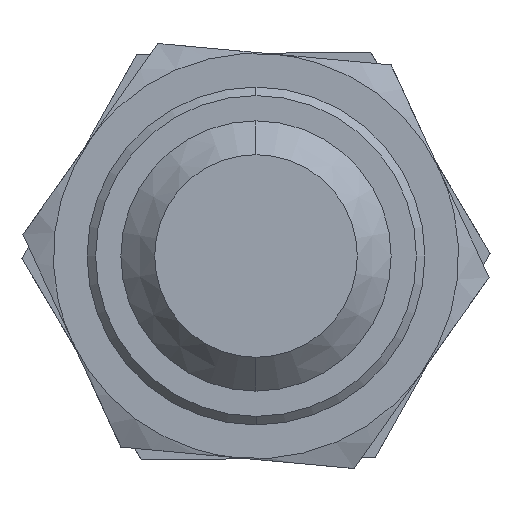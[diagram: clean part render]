
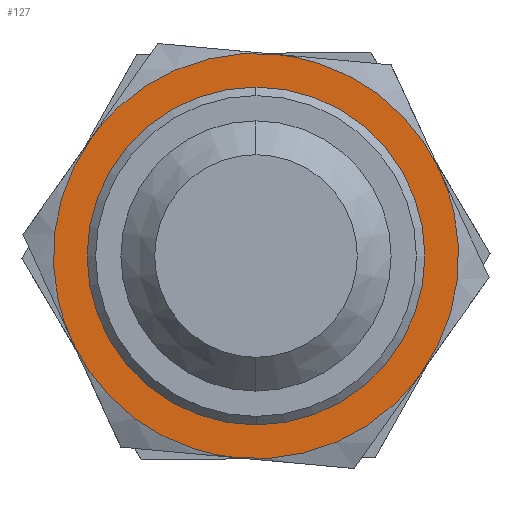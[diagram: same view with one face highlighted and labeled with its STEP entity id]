
A CAD part, left-side view. The second image highlights one B-rep face of the part: STEP entity #127.
In plain terms, the highlighted planar face has unit normal (-1, 0, 0) as drawn and (1, 0, 0) by its records, which use the part's own axes.
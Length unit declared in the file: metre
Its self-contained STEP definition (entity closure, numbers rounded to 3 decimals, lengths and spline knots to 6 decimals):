
#15 = CARTESIAN_POINT ( 'NONE',  ( 0.004, 0., 0. ) ) ;
#99 = VERTEX_POINT ( 'NONE', #1525 ) ;
#112 = CARTESIAN_POINT ( 'NONE',  ( 0.004, -0.010392, -0.006 ) ) ;
#127 = ADVANCED_FACE ( 'NONE', ( #1463, #517 ), #574, .T. ) ;
#131 = DIRECTION ( 'NONE',  ( 0., 1., 0. ) ) ;
#225 = CARTESIAN_POINT ( 'NONE',  ( 0.004, 0.010392, 0.006 ) ) ;
#288 = AXIS2_PLACEMENT_3D ( 'NONE', #15, #853, #131 ) ;
#294 = VERTEX_POINT ( 'NONE', #302 ) ;
#302 = CARTESIAN_POINT ( 'NONE',  ( 0.004, -0.010392, 0.006 ) ) ;
#339 =( BOUNDED_CURVE ( )  B_SPLINE_CURVE ( 3, ( #1264, #449, #691, #1518 ),
 .UNSPECIFIED., .F., .F. ) 
 B_SPLINE_CURVE_WITH_KNOTS ( ( 4, 4 ),
 ( 0., 0.012544 ),
 .UNSPECIFIED. ) 
 CURVE ( )  GEOMETRIC_REPRESENTATION_ITEM ( )  RATIONAL_B_SPLINE_CURVE ( ( 0.986, 0.898, 0.898, 0.986 ) ) 
 REPRESENTATION_ITEM ( '' )  );
#341 = AXIS2_PLACEMENT_3D ( 'NONE', #452, #1266, #571 ) ;
#368 = CARTESIAN_POINT ( 'NONE',  ( 0.004, -0.010392, 0.006 ) ) ;
#395 = ORIENTED_EDGE ( 'NONE', *, *, #990, .T. ) ;
#435 = EDGE_CURVE ( 'NONE', #99, #603, #1081, .T. ) ;
#449 = CARTESIAN_POINT ( 'NONE',  ( 0.004, 0.004392, -0.012 ) ) ;
#452 = CARTESIAN_POINT ( 'NONE',  ( 0.004, 0., 0. ) ) ;
#488 = CARTESIAN_POINT ( 'NONE',  ( 0.004, -0.012588, 0.002196 ) ) ;
#517 = FACE_OUTER_BOUND ( 'NONE', #657, .T. ) ;
#526 = CARTESIAN_POINT ( 'NONE',  ( 0.004, 0.00925, 0. ) ) ;
#528 = CARTESIAN_POINT ( 'NONE',  ( 0.004, 0., 0.012 ) ) ;
#532 = VERTEX_POINT ( 'NONE', #844 ) ;
#540 = ORIENTED_EDGE ( 'NONE', *, *, #831, .T. ) ;
#549 = VERTEX_POINT ( 'NONE', #1015 ) ;
#571 = DIRECTION ( 'NONE',  ( 0., 1., 0. ) ) ;
#574 = PLANE ( 'NONE',  #900 ) ;
#584 = CARTESIAN_POINT ( 'NONE',  ( 0.004, -0.012144, 0.012144 ) ) ;
#591 = CARTESIAN_POINT ( 'NONE',  ( 0.004, 0.008195, 0.009805 ) ) ;
#603 = VERTEX_POINT ( 'NONE', #1503 ) ;
#606 = CARTESIAN_POINT ( 'NONE',  ( 0.004, -0.008196, -0.009804 ) ) ;
#607 = ORIENTED_EDGE ( 'NONE', *, *, #1235, .F. ) ;
#614 = EDGE_CURVE ( 'NONE', #603, #1467, #339, .T. ) ;
#633 = CARTESIAN_POINT ( 'NONE',  ( 0.004, -0.010392, -0.006 ) ) ;
#650 = ORIENTED_EDGE ( 'NONE', *, *, #1493, .F. ) ;
#657 = EDGE_LOOP ( 'NONE', ( #751, #1045, #896, #1136, #540, #395 ) ) ;
#691 = CARTESIAN_POINT ( 'NONE',  ( 0.004, 0.008196, -0.009804 ) ) ;
#723 = CARTESIAN_POINT ( 'NONE',  ( 0.004, -0.010392, 0.006 ) ) ;
#732 = CARTESIAN_POINT ( 'NONE',  ( 0.004, -0.004392, -0.012 ) ) ;
#742 = CARTESIAN_POINT ( 'NONE',  ( 0.004, 0., -0.012 ) ) ;
#751 = ORIENTED_EDGE ( 'NONE', *, *, #1094, .T. ) ;
#764 = DIRECTION ( 'NONE',  ( 1., 0., 0. ) ) ;
#771 = CARTESIAN_POINT ( 'NONE',  ( 0.004, 0., 0.012 ) ) ;
#790 = CARTESIAN_POINT ( 'NONE',  ( 0.004, 0.010392, -0.006 ) ) ;
#801 = DIRECTION ( 'NONE',  ( 0., 0., -1. ) ) ;
#817 = CARTESIAN_POINT ( 'NONE',  ( 0.004, 0., 0.012 ) ) ;
#831 = EDGE_CURVE ( 'NONE', #1467, #549, #1091, .T. ) ;
#835 = CARTESIAN_POINT ( 'NONE',  ( 0.004, -0.012588, -0.002196 ) ) ;
#844 = CARTESIAN_POINT ( 'NONE',  ( 0.004, -0.00925, 0. ) ) ;
#853 = DIRECTION ( 'NONE',  ( 1., 0., 0. ) ) ;
#896 = ORIENTED_EDGE ( 'NONE', *, *, #435, .T. ) ;
#900 = AXIS2_PLACEMENT_3D ( 'NONE', #584, #764, #801 ) ;
#927 =( BOUNDED_CURVE ( )  B_SPLINE_CURVE ( 3, ( #225, #591, #1535, #817 ),
 .UNSPECIFIED., .F., .F. ) 
 B_SPLINE_CURVE_WITH_KNOTS ( ( 4, 4 ),
 ( 0., 0.012544 ),
 .UNSPECIFIED. ) 
 CURVE ( )  GEOMETRIC_REPRESENTATION_ITEM ( )  RATIONAL_B_SPLINE_CURVE ( ( 0.986, 0.898, 0.899, 0.987 ) ) 
 REPRESENTATION_ITEM ( '' )  );
#990 = EDGE_CURVE ( 'NONE', #549, #1416, #927, .T. ) ;
#1015 = CARTESIAN_POINT ( 'NONE',  ( 0.004, 0.010392, 0.006 ) ) ;
#1033 = CARTESIAN_POINT ( 'NONE',  ( 0.004, 0.010392, -0.006 ) ) ;
#1038 = CIRCLE ( 'NONE', #341, 0.00925 ) ;
#1045 = ORIENTED_EDGE ( 'NONE', *, *, #1154, .T. ) ;
#1081 =( BOUNDED_CURVE ( )  B_SPLINE_CURVE ( 3, ( #633, #606, #732, #742 ),
 .UNSPECIFIED., .F., .F. ) 
 B_SPLINE_CURVE_WITH_KNOTS ( ( 4, 4 ),
 ( 0., 0.012544 ),
 .UNSPECIFIED. ) 
 CURVE ( )  GEOMETRIC_REPRESENTATION_ITEM ( )  RATIONAL_B_SPLINE_CURVE ( ( 0.986, 0.898, 0.898, 0.986 ) ) 
 REPRESENTATION_ITEM ( '' )  );
#1091 =( BOUNDED_CURVE ( )  B_SPLINE_CURVE ( 3, ( #790, #1516, #1255, #1262 ),
 .UNSPECIFIED., .F., .F. ) 
 B_SPLINE_CURVE_WITH_KNOTS ( ( 4, 4 ),
 ( 0., 0.012544 ),
 .UNSPECIFIED. ) 
 CURVE ( )  GEOMETRIC_REPRESENTATION_ITEM ( )  RATIONAL_B_SPLINE_CURVE ( ( 0.986, 0.898, 0.898, 0.986 ) ) 
 REPRESENTATION_ITEM ( '' )  );
#1094 = EDGE_CURVE ( 'NONE', #1416, #294, #1175, .T. ) ;
#1136 = ORIENTED_EDGE ( 'NONE', *, *, #614, .T. ) ;
#1154 = EDGE_CURVE ( 'NONE', #294, #99, #1185, .T. ) ;
#1175 =( BOUNDED_CURVE ( )  B_SPLINE_CURVE ( 3, ( #528, #1184, #1428, #723 ),
 .UNSPECIFIED., .F., .F. ) 
 B_SPLINE_CURVE_WITH_KNOTS ( ( 4, 4 ),
 ( 0., 0.012544 ),
 .UNSPECIFIED. ) 
 CURVE ( )  GEOMETRIC_REPRESENTATION_ITEM ( )  RATIONAL_B_SPLINE_CURVE ( ( 0.986, 0.898, 0.898, 0.986 ) ) 
 REPRESENTATION_ITEM ( '' )  );
#1184 = CARTESIAN_POINT ( 'NONE',  ( 0.004, -0.004392, 0.012 ) ) ;
#1185 =( BOUNDED_CURVE ( )  B_SPLINE_CURVE ( 3, ( #368, #488, #835, #112 ),
 .UNSPECIFIED., .F., .T. ) 
 B_SPLINE_CURVE_WITH_KNOTS ( ( 4, 4 ),
 ( 0., 0.012544 ),
 .UNSPECIFIED. ) 
 CURVE ( )  GEOMETRIC_REPRESENTATION_ITEM ( )  RATIONAL_B_SPLINE_CURVE ( ( 0.986, 0.898, 0.898, 0.986 ) ) 
 REPRESENTATION_ITEM ( '' )  );
#1235 = EDGE_CURVE ( 'NONE', #1347, #532, #1364, .T. ) ;
#1255 = CARTESIAN_POINT ( 'NONE',  ( 0.004, 0.012588, 0.002196 ) ) ;
#1262 = CARTESIAN_POINT ( 'NONE',  ( 0.004, 0.010392, 0.006 ) ) ;
#1264 = CARTESIAN_POINT ( 'NONE',  ( 0.004, 0., -0.012 ) ) ;
#1266 = DIRECTION ( 'NONE',  ( 1., 0., 0. ) ) ;
#1347 = VERTEX_POINT ( 'NONE', #526 ) ;
#1357 = EDGE_LOOP ( 'NONE', ( #607, #650 ) ) ;
#1364 = CIRCLE ( 'NONE', #288, 0.00925 ) ;
#1416 = VERTEX_POINT ( 'NONE', #771 ) ;
#1428 = CARTESIAN_POINT ( 'NONE',  ( 0.004, -0.008196, 0.009804 ) ) ;
#1463 = FACE_BOUND ( 'NONE', #1357, .T. ) ;
#1467 = VERTEX_POINT ( 'NONE', #1033 ) ;
#1493 = EDGE_CURVE ( 'NONE', #532, #1347, #1038, .T. ) ;
#1503 = CARTESIAN_POINT ( 'NONE',  ( 0.004, 0., -0.012 ) ) ;
#1516 = CARTESIAN_POINT ( 'NONE',  ( 0.004, 0.012588, -0.002196 ) ) ;
#1518 = CARTESIAN_POINT ( 'NONE',  ( 0.004, 0.010392, -0.006 ) ) ;
#1525 = CARTESIAN_POINT ( 'NONE',  ( 0.004, -0.010392, -0.006 ) ) ;
#1535 = CARTESIAN_POINT ( 'NONE',  ( 0.004, 0.004391, 0.012 ) ) ;
